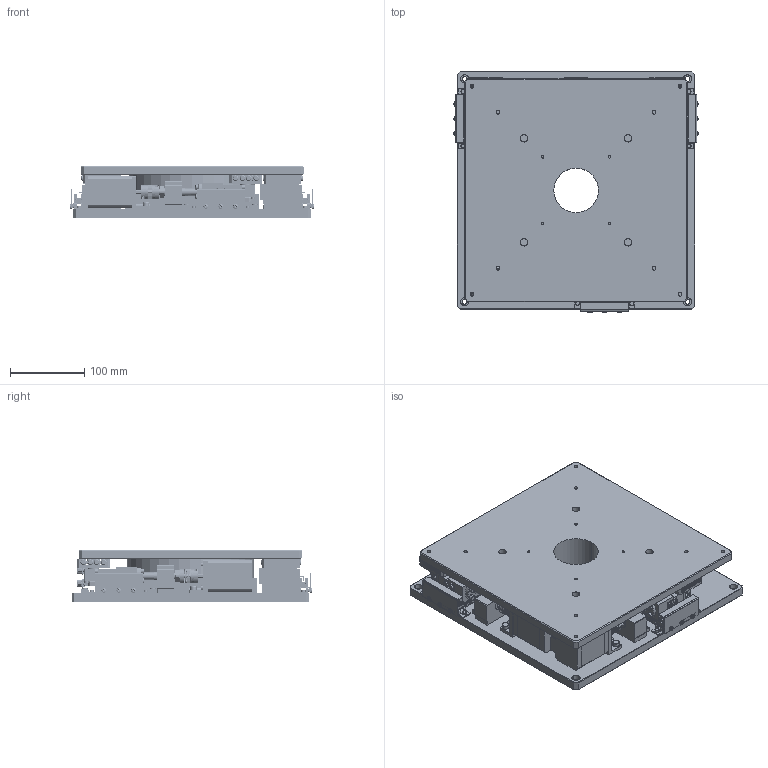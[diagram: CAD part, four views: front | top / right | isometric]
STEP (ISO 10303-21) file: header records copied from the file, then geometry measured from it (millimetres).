
FILE_DESCRIPTION (( 'STEP AP214' ), '1' );
FILE_NAME ('NAF3C-30K00P_3D図.STEP', '2021-01-09T04:37:53', ( 'hst101l' ), ( 'Microsoft' ), 'SwSTEP 2.0', 'SolidWorks 2016', '' );
FILE_SCHEMA (( 'AUTOMOTIVE_DESIGN' ));
Products named in the file (1): NAF3C-30K00P_3D図
Bounding box: 328.49 x 324.34 x 70 mm (x, y, z)
Volume: 4178894 mm3; surface area: 633344.1 mm2
Topology: 1 solids, 1 shells, 4541 faces, 11646 edges, 7387 vertices
Faces by surface type: plane 2783, cylinder 1144, cone 432, bspline 104, torus 60, sphere 18
Entity records: 140237 total; most frequent: CARTESIAN_POINT 28126, DIRECTION 23717, ORIENTED_EDGE 23236, EDGE_CURVE 11618, AXIS2_PLACEMENT_3D 8224, VERTEX_POINT 7387, LINE 7269, VECTOR 7269
